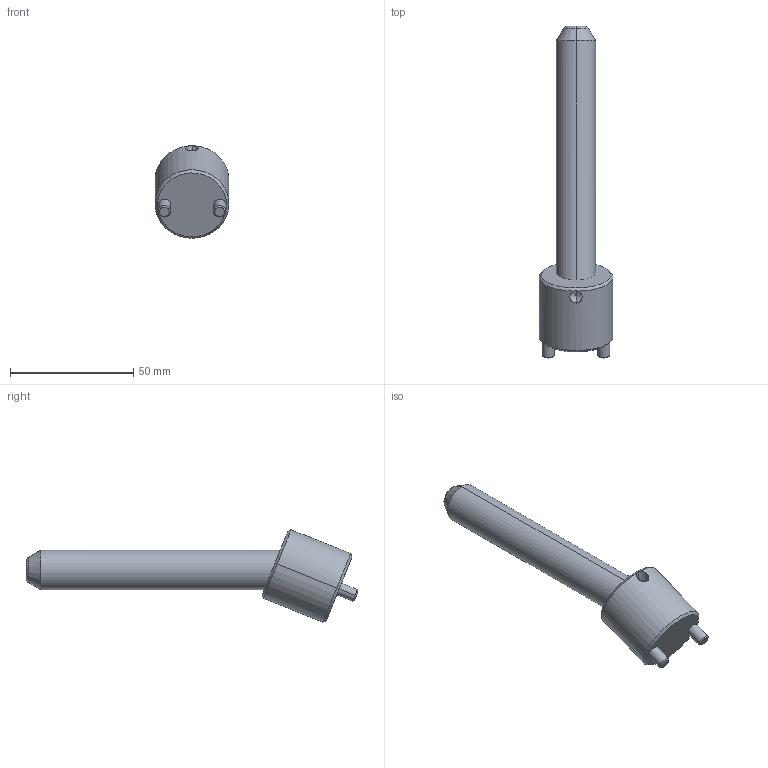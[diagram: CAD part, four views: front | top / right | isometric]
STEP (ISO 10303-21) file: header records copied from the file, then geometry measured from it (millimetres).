
FILE_DESCRIPTION(('CATIA V5 STEP Exchange'),'2;1');
FILE_NAME('C:\Users\Raffaele\Desktop\3D BOLEX\3D FILES CF BOLEX\19-INCLINED ASSEMBLY REF_CI\CI2216100.stp','2019-06-24T06:48:01+00:00',('none'),('none'),'CATIA Version 5 Release 20 GA (IN-10)','CATIA V5 STEP AP203','none');
FILE_SCHEMA(('CONFIG_CONTROL_DESIGN'));
Length unit declared in the file: millimetre
Products named in the file (1): CI2216100
Assembly tree (2 placements, depth 2):
  CI2216100
    #58
    #578
Bounding box: 30 x 134.79 x 37.53 mm (x, y, z)
Volume: 39367.6 mm3; surface area: 11943.4 mm2
Topology: 2 solids, 2 shells, 39 faces, 85 edges, 49 vertices
Faces by surface type: cone 14, cylinder 14, plane 7, torus 4
Entity records: 1495 total; most frequent: CARTESIAN_POINT 622, ORIENTED_EDGE 166, DIRECTION 146, EDGE_CURVE 83, AXIS2_PLACEMENT_3D 73, VERTEX_POINT 49, EDGE_LOOP 42, ADVANCED_FACE 39
